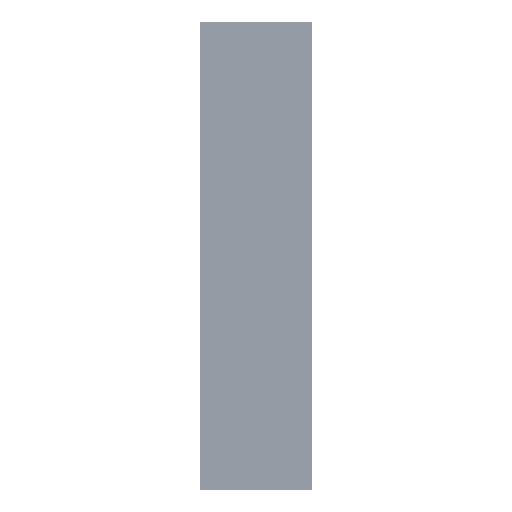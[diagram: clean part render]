
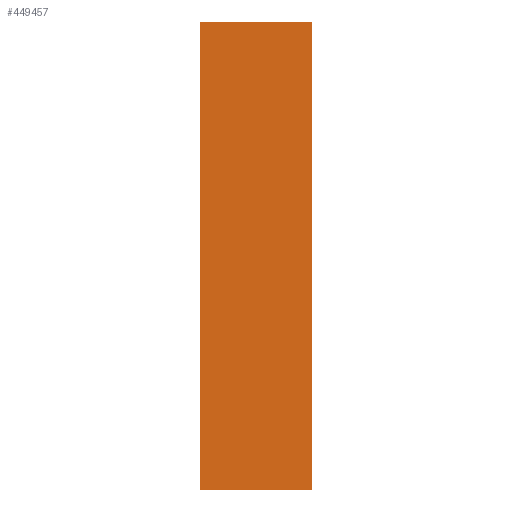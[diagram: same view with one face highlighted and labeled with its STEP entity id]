
A CAD part, front view. The second image highlights one B-rep face of the part: STEP entity #449457.
In plain terms, the highlighted planar face has unit normal (0, -1, 0).
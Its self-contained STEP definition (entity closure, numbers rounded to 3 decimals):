
#26798 = FACE_OUTER_BOUND ( 'NONE', #268432, .T. ) ;
#27130 = ORIENTED_EDGE ( 'NONE', *, *, #347259, .F. ) ;
#32405 = VECTOR ( 'NONE', #142894, 1000. ) ;
#40414 = LINE ( 'NONE', #92896, #405975 ) ;
#53071 = ORIENTED_EDGE ( 'NONE', *, *, #383846, .F. ) ;
#65434 = CARTESIAN_POINT ( 'NONE',  ( -1496.798, -200., 6037.97 ) ) ;
#77786 = DIRECTION ( 'NONE',  ( 1., 0., 0. ) ) ;
#85444 = AXIS2_PLACEMENT_3D ( 'NONE', #196907, #460545, #234858 ) ;
#92896 = CARTESIAN_POINT ( 'NONE',  ( -1496.798, -200., 6037.97 ) ) ;
#121141 = PLANE ( 'NONE',  #85444 ) ;
#142894 = DIRECTION ( 'NONE',  ( -1., 0., 0. ) ) ;
#153598 = CARTESIAN_POINT ( 'NONE',  ( -1496.798, -200., 8537.97 ) ) ;
#182838 = CARTESIAN_POINT ( 'NONE',  ( -2096.798, -200., 6037.97 ) ) ;
#187016 = VERTEX_POINT ( 'NONE', #356742 ) ;
#196907 = CARTESIAN_POINT ( 'NONE',  ( -1796.798, -200., 7287.97 ) ) ;
#217511 = DIRECTION ( 'NONE',  ( 0., 0., 1. ) ) ;
#219912 = EDGE_CURVE ( 'NONE', #236945, #281737, #40414, .T. ) ;
#233014 = LINE ( 'NONE', #65434, #32405 ) ;
#234858 = DIRECTION ( 'NONE',  ( -1., 0., 0. ) ) ;
#236945 = VERTEX_POINT ( 'NONE', #441037 ) ;
#241453 = EDGE_CURVE ( 'NONE', #271745, #187016, #355671, .T. ) ;
#248554 = CARTESIAN_POINT ( 'NONE',  ( -1496.798, -200., 6037.97 ) ) ;
#253856 = ORIENTED_EDGE ( 'NONE', *, *, #219912, .F. ) ;
#268432 = EDGE_LOOP ( 'NONE', ( #27130, #283782, #53071, #253856 ) ) ;
#271745 = VERTEX_POINT ( 'NONE', #343002 ) ;
#281737 = VERTEX_POINT ( 'NONE', #248554 ) ;
#283782 = ORIENTED_EDGE ( 'NONE', *, *, #241453, .F. ) ;
#343002 = CARTESIAN_POINT ( 'NONE',  ( -2096.798, -200., 6037.97 ) ) ;
#347259 = EDGE_CURVE ( 'NONE', #187016, #236945, #367703, .T. ) ;
#355671 = LINE ( 'NONE', #182838, #367462 ) ;
#356742 = CARTESIAN_POINT ( 'NONE',  ( -2096.798, -200., 8537.97 ) ) ;
#367462 = VECTOR ( 'NONE', #217511, 1000. ) ;
#367703 = LINE ( 'NONE', #153598, #479808 ) ;
#383846 = EDGE_CURVE ( 'NONE', #281737, #271745, #233014, .T. ) ;
#394384 = DIRECTION ( 'NONE',  ( 0., 0., -1. ) ) ;
#405975 = VECTOR ( 'NONE', #394384, 1000. ) ;
#441037 = CARTESIAN_POINT ( 'NONE',  ( -1496.798, -200., 8537.97 ) ) ;
#449457 = ADVANCED_FACE ( 'NONE', ( #26798 ), #121141, .F. ) ;
#460545 = DIRECTION ( 'NONE',  ( 0., 1., 0. ) ) ;
#479808 = VECTOR ( 'NONE', #77786, 1000. ) ;
